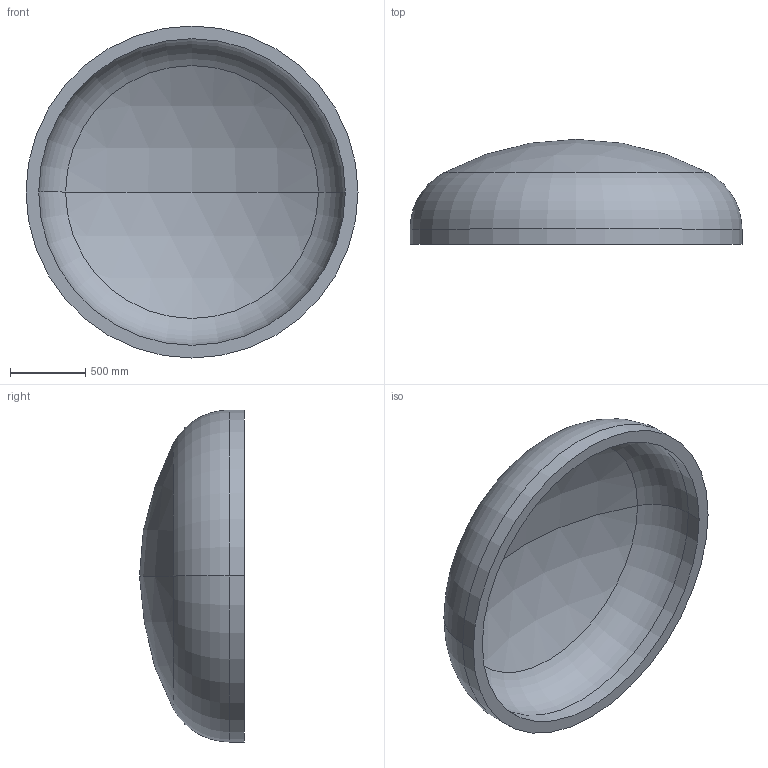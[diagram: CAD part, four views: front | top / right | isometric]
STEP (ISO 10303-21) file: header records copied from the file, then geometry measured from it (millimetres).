
FILE_DESCRIPTION (( 'STEP AP203' ), '1' );
FILE_NAME ('DIN 28013 Korbbogenform_-_Boden DIN 28013 - 2200 x 100 - I - s=84.step', '2016-07-01T14:49:50', ( '' ), ( '' ), 'SwSTEP 2.0', 'SolidWorks 2013', '' );
FILE_SCHEMA (( 'CONFIG_CONTROL_DESIGN' ));
Length unit declared in the file: millimetre
Products named in the file (1): DIN 28013 Korbbogenform_-_Boden DIN 28013 - 2200 x 100 - I - s=84
Bounding box: 2200 x 695.23 x 2200 mm (x, y, z)
Volume: 477006186.4 mm3; surface area: 11930464.1 mm2
Topology: 1 solids, 1 shells, 13 faces, 24 edges, 14 vertices
Faces by surface type: torus 4, cylinder 4, sphere 4, plane 1
Entity records: 407 total; most frequent: DIRECTION 72, CARTESIAN_POINT 52, ORIENTED_EDGE 48, AXIS2_PLACEMENT_3D 34, EDGE_CURVE 24, CIRCLE 20, VERTEX_POINT 14, EDGE_LOOP 14
